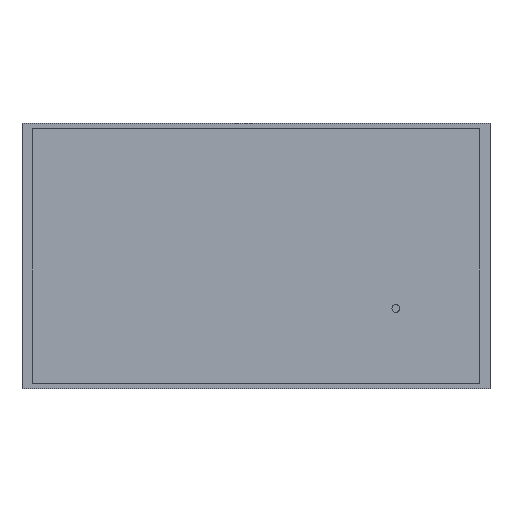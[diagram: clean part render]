
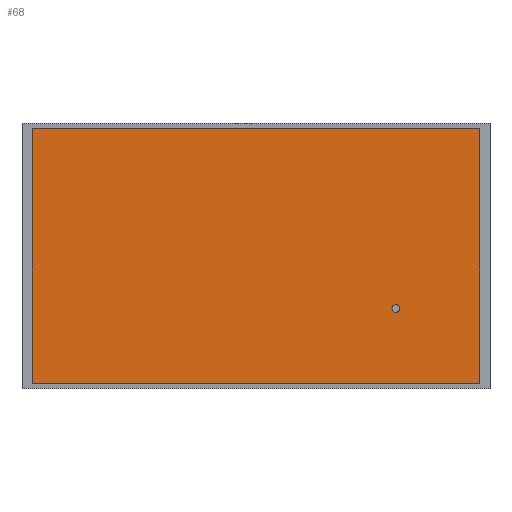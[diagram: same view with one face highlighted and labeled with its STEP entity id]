
A CAD part, top view. The second image highlights one B-rep face of the part: STEP entity #68.
In plain terms, the highlighted planar face has unit normal (0, 0, 1).
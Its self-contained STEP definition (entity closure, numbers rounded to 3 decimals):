
#68=ADVANCED_FACE('',(#97),#83,.T.);
#83=PLANE('',#348);
#97=FACE_OUTER_BOUND('',#111,.T.);
#111=EDGE_LOOP('',(#157,#158,#159,#160));
#157=ORIENTED_EDGE('',*,*,#201,.T.);
#158=ORIENTED_EDGE('',*,*,#205,.T.);
#159=ORIENTED_EDGE('',*,*,#208,.T.);
#160=ORIENTED_EDGE('',*,*,#210,.T.);
#179=VERTEX_POINT('',#466);
#180=VERTEX_POINT('',#468);
#182=VERTEX_POINT('',#474);
#184=VERTEX_POINT('',#480);
#201=EDGE_CURVE('',#180,#179,#264,.T.);
#205=EDGE_CURVE('',#179,#182,#268,.T.);
#208=EDGE_CURVE('',#182,#184,#271,.T.);
#210=EDGE_CURVE('',#184,#180,#273,.T.);
#264=LINE('',#467,#296);
#268=LINE('',#475,#300);
#271=LINE('',#481,#303);
#273=LINE('',#484,#305);
#296=VECTOR('',#393,1.);
#300=VECTOR('',#399,1.);
#303=VECTOR('',#404,1.);
#305=VECTOR('',#408,1.);
#348=AXIS2_PLACEMENT_3D('',#486,#411,#412);
#393=DIRECTION('',(0.,-1.,0.));
#399=DIRECTION('',(1.,0.,0.));
#404=DIRECTION('',(0.,1.,0.));
#408=DIRECTION('',(-1.,0.,0.));
#411=DIRECTION('',(0.,0.,1.));
#412=DIRECTION('',(1.,0.,0.));
#466=CARTESIAN_POINT('',(-430.,-245.,49.));
#467=CARTESIAN_POINT('',(-430.,245.,49.));
#468=CARTESIAN_POINT('',(-430.,245.,49.));
#474=CARTESIAN_POINT('',(430.,-245.,49.));
#475=CARTESIAN_POINT('',(-430.,-245.,49.));
#480=CARTESIAN_POINT('',(430.,245.,49.));
#481=CARTESIAN_POINT('',(430.,-245.,49.));
#484=CARTESIAN_POINT('',(430.,245.,49.));
#486=CARTESIAN_POINT('',(0.,0.,49.));
